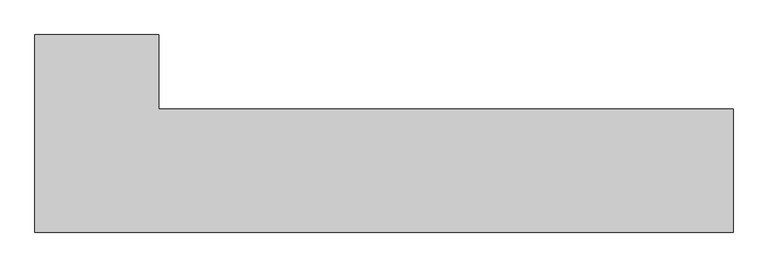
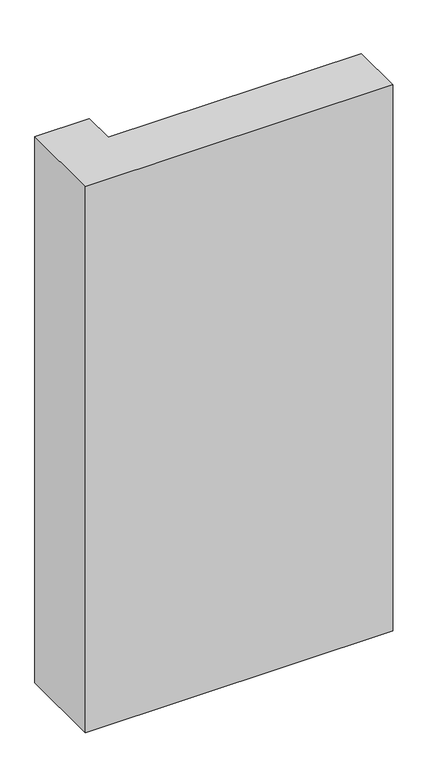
"""IFC4 building model written with IfcOpenShell, lengths in millimetres: column geometry, Columna Estructural Ele : ECO_Ele 40x141x25."""

from ifc_helpers import new_model, si_unit, frame, origin, place, context, project, spatial, polyline, outline, extrude, source, transform, mapped, element, save


def column_7b9fd71a(model_context):
    return source(origin(), model_context, "Body", "SweptSolid", [
        extrude(outline(polyline([(125.0, 275.0), (125.0, 125.0), (1285.0, 125.0), (1285.0, -125.0), (-125.0, -125.0), (-125.0, 275.0), (125.0, 275.0)])), frame((0.0, 0.0, 2750.0), z_axis=(0.0, 0.0, 1.0), x_axis=(1.0, 0.0, 0.0)), (0.0, 0.0, 1.0), 2650.0),
    ])


if __name__ == "__main__":
    model = new_model("IFC4")
    model_context = context("Model", 3, world=origin())
    ifc_project = project(units=[si_unit("LENGTHUNIT", "METRE", prefix="MILLI")], contexts=[model_context])
    site = spatial("IfcSite", under=ifc_project)
    building = spatial("IfcBuilding", under=site)
    placement = place(None, origin())
    column_shape = column_7b9fd71a(model_context)
    element("IfcColumn", 1, ObjectType="Columna Estructural Ele : ECO_Ele 40x141x25", at=placement, inside=building, context=model_context, shape_type="MappedRepresentation", body=[
        mapped(column_shape, transform((0.0, 0.0, 0.0), x_axis=(1.0, 0.0, 0.0), y_axis=(0.0, 1.0, 0.0), z_axis=(0.0, 0.0, 1.0))),
    ])
    save(model, "model.ifc")
